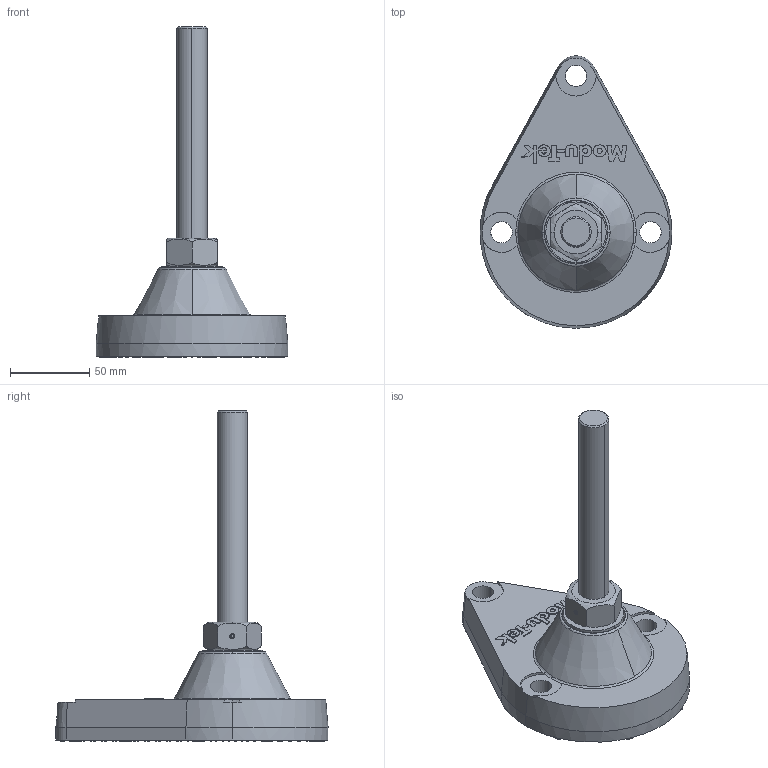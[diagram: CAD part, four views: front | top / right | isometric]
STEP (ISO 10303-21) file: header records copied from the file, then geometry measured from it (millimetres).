
FILE_DESCRIPTION (( 'STEP AP214' ), '1' );
FILE_NAME ('H0200821.STEP', '2014-02-11T15:51:48', ( 'Eric_Werenskjold' ), ( '' ), 'SwSTEP 2.0', 'SolidWorks 2014', '' );
FILE_SCHEMA (( 'AUTOMOTIVE_DESIGN' ));
Length unit declared in the file: inch
Products named in the file (1): H0200821
Bounding box: 120.65 x 171.41 x 208.05 mm (x, y, z)
Volume: 299205.5 mm3; surface area: 93039.5 mm2
Topology: 6 solids, 6 shells, 952 faces, 2506 edges, 1656 vertices
Faces by surface type: plane 530, cone 223, cylinder 177, bspline 22
Entity records: 42607 total; most frequent: CARTESIAN_POINT 6932, DIRECTION 5091, ORIENTED_EDGE 5012, EDGE_CURVE 2506, AXIS2_PLACEMENT_3D 1795, VERTEX_POINT 1656, LINE 1501, VECTOR 1501
